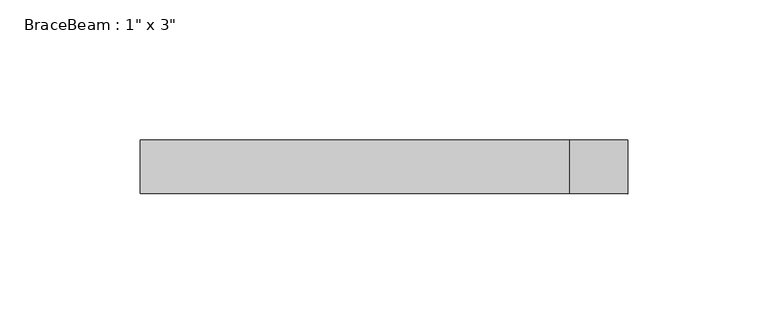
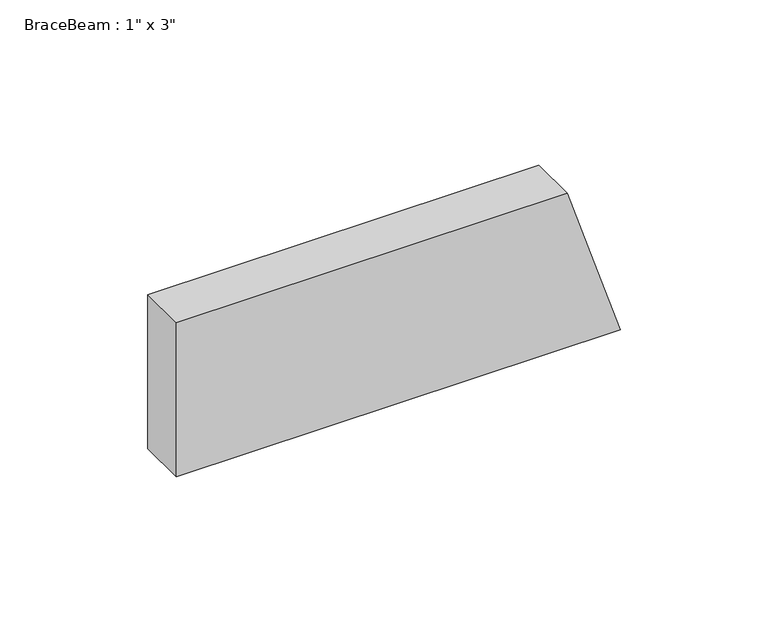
"""IFC4 building model written with IfcOpenShell, lengths in millimetres: beam geometry."""

from ifc_helpers import new_model, si_unit, origin, place, context, project, spatial, faceted_brep, source, transform, mapped, element, save


def beam_5c19c8d0(model_context):
    return source(origin(), model_context, "Body", "Brep", [
        faceted_brep([(-82.3327109, 9.525, -31.75), (91.0471884, 9.525, -31.75), (91.0471884, -9.525, -31.75), (-82.3327109, -9.525, -31.75), (80.6843412, -9.525, 0.0), (70.3214939, -9.525, 31.75), (-82.3327109, -9.525, 31.75), (70.3214939, 9.525, 31.75), (-82.3327109, 9.525, 31.75), (80.6843412, 9.525, 0.0)], [[[0, 1, 2, 3]], [[3, 2, 4, 5, 6]], [[6, 5, 7, 8]], [[8, 7, 9, 1, 0]], [[8, 0, 3, 6]], [[5, 4, 2, 1, 9, 7]]]),
    ])


if __name__ == "__main__":
    model = new_model("IFC4")
    model_context = context("Model", 3, world=origin())
    ifc_project = project(units=[si_unit("LENGTHUNIT", "METRE", prefix="MILLI")], contexts=[model_context])
    site = spatial("IfcSite", under=ifc_project)
    building = spatial("IfcBuilding", under=site)
    placement = place(None, origin())
    beam_shape = beam_5c19c8d0(model_context)
    element("IfcBeam", 1, ObjectType="BraceBeam : 1\" x 3\"", at=placement, inside=building, context=model_context, shape_type="MappedRepresentation", body=[
        mapped(beam_shape, transform((0.0, 0.0, 0.0), x_axis=(1.0, 0.0, 0.0), y_axis=(0.0, 1.0, 0.0), z_axis=(0.0, 0.0, 1.0))),
    ])
    save(model, "model.ifc")
